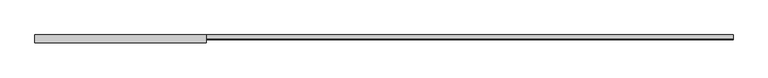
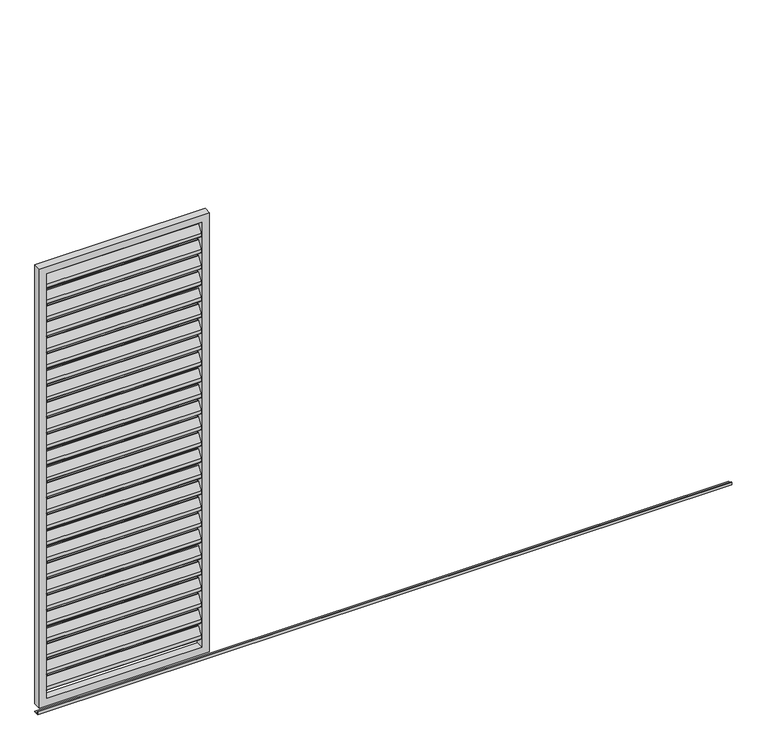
"""IFC4 building model written with IfcOpenShell, lengths in millimetres: proxy geometry, Renson_Amani_Loggia_Paro_Aluminium_Sliding : Renson_Amani_Loggia_Paro_Aluminium_Sliding."""

from ifc_helpers import new_model, si_unit, point, frame, frame_2d, origin, place, context, project, spatial, polyline, circle_curve, trimmed, segment, composite_curve, outline, extrude, source, transform, mapped, element, save


def generic_models_edb0fb24(model_context):
    return source(origin(), model_context, "Body", "SweptSolid", [
        extrude(outline(composite_curve([segment(trimmed(circle_curve(frame_2d((12.6675921, 2432.6587719)), 3.0), [point((10.1515804, 2434.292689))], [point((15.6675921, 2432.6587719))], False, "CARTESIAN"), True, "CONTINUOUS"), segment(polyline([(15.6675921, 2432.6587719), (15.6675921, 2414.2979873)]), True, "CONTINUOUS"), segment(trimmed(circle_curve(frame_2d((12.6675921, 2414.2979873)), 3.0), [point((15.6675921, 2414.2979873))], [point((15.1836038, 2412.6640702))], False, "CARTESIAN"), True, "CONTINUOUS"), segment(polyline([(15.1836038, 2412.6640702), (-8.8163962, 2375.707311)]), True, "CONTINUOUS"), segment(trimmed(circle_curve(frame_2d((-11.3324079, 2377.3412281)), 3.0), [point((-8.8163962, 2375.707311))], [point((-14.3324079, 2377.3412281))], False, "CARTESIAN"), True, "CONTINUOUS"), segment(polyline([(-14.3324079, 2377.3412281), (-14.3324079, 2396.5906532), (10.1515804, 2434.292689)]), True, "CONTINUOUS")], self_intersect=False)), frame((-410.0, 0.0, 0.0), z_axis=(1.0, 0.0, 0.0), x_axis=(0.0, 1.0, 0.0)), (0.0, 0.0, 1.0), 820.0),
        extrude(outline(composite_curve([segment(trimmed(circle_curve(frame_2d((12.6675921, 2342.6587719)), 3.0), [point((10.1515804, 2344.292689))], [point((15.6675921, 2342.6587719))], False, "CARTESIAN"), True, "CONTINUOUS"), segment(polyline([(15.6675921, 2342.6587719), (15.6675921, 2324.2979873)]), True, "CONTINUOUS"), segment(trimmed(circle_curve(frame_2d((12.6675921, 2324.2979873)), 3.0), [point((15.6675921, 2324.2979873))], [point((15.1836038, 2322.6640702))], False, "CARTESIAN"), True, "CONTINUOUS"), segment(polyline([(15.1836038, 2322.6640702), (-8.8163962, 2285.707311)]), True, "CONTINUOUS"), segment(trimmed(circle_curve(frame_2d((-11.3324079, 2287.3412281)), 3.0), [point((-8.8163962, 2285.707311))], [point((-14.3324079, 2287.3412281))], False, "CARTESIAN"), True, "CONTINUOUS"), segment(polyline([(-14.3324079, 2287.3412281), (-14.3324079, 2306.5906532), (10.1515804, 2344.292689)]), True, "CONTINUOUS")], self_intersect=False)), frame((-410.0, 0.0, 0.0), z_axis=(1.0, 0.0, 0.0), x_axis=(0.0, 1.0, 0.0)), (0.0, 0.0, 1.0), 820.0),
        extrude(outline(composite_curve([segment(trimmed(circle_curve(frame_2d((12.6675921, 2252.6587719)), 3.0), [point((10.1515804, 2254.292689))], [point((15.6675921, 2252.6587719))], False, "CARTESIAN"), True, "CONTINUOUS"), segment(polyline([(15.6675921, 2252.6587719), (15.6675921, 2234.2979873)]), True, "CONTINUOUS"), segment(trimmed(circle_curve(frame_2d((12.6675921, 2234.2979873)), 3.0), [point((15.6675921, 2234.2979873))], [point((15.1836038, 2232.6640702))], False, "CARTESIAN"), True, "CONTINUOUS"), segment(polyline([(15.1836038, 2232.6640702), (-8.8163962, 2195.707311)]), True, "CONTINUOUS"), segment(trimmed(circle_curve(frame_2d((-11.3324079, 2197.3412281)), 3.0), [point((-8.8163962, 2195.707311))], [point((-14.3324079, 2197.3412281))], False, "CARTESIAN"), True, "CONTINUOUS"), segment(polyline([(-14.3324079, 2197.3412281), (-14.3324079, 2216.5906532), (10.1515804, 2254.292689)]), True, "CONTINUOUS")], self_intersect=False)), frame((-410.0, 0.0, 0.0), z_axis=(1.0, 0.0, 0.0), x_axis=(0.0, 1.0, 0.0)), (0.0, 0.0, 1.0), 820.0),
        extrude(outline(composite_curve([segment(trimmed(circle_curve(frame_2d((12.6675921, 2162.6587719)), 3.0), [point((10.1515804, 2164.292689))], [point((15.6675921, 2162.6587719))], False, "CARTESIAN"), True, "CONTINUOUS"), segment(polyline([(15.6675921, 2162.6587719), (15.6675921, 2144.2979873)]), True, "CONTINUOUS"), segment(trimmed(circle_curve(frame_2d((12.6675921, 2144.2979873)), 3.0), [point((15.6675921, 2144.2979873))], [point((15.1836038, 2142.6640702))], False, "CARTESIAN"), True, "CONTINUOUS"), segment(polyline([(15.1836038, 2142.6640702), (-8.8163962, 2105.707311)]), True, "CONTINUOUS"), segment(trimmed(circle_curve(frame_2d((-11.3324079, 2107.3412281)), 3.0), [point((-8.8163962, 2105.707311))], [point((-14.3324079, 2107.3412281))], False, "CARTESIAN"), True, "CONTINUOUS"), segment(polyline([(-14.3324079, 2107.3412281), (-14.3324079, 2126.5906532), (10.1515804, 2164.292689)]), True, "CONTINUOUS")], self_intersect=False)), frame((-410.0, 0.0, 0.0), z_axis=(1.0, 0.0, 0.0), x_axis=(0.0, 1.0, 0.0)), (0.0, 0.0, 1.0), 820.0),
        extrude(outline(composite_curve([segment(trimmed(circle_curve(frame_2d((12.6675921, 2072.6587719)), 3.0), [point((10.1515804, 2074.292689))], [point((15.6675921, 2072.6587719))], False, "CARTESIAN"), True, "CONTINUOUS"), segment(polyline([(15.6675921, 2072.6587719), (15.6675921, 2054.2979873)]), True, "CONTINUOUS"), segment(trimmed(circle_curve(frame_2d((12.6675921, 2054.2979873)), 3.0), [point((15.6675921, 2054.2979873))], [point((15.1836038, 2052.6640702))], False, "CARTESIAN"), True, "CONTINUOUS"), segment(polyline([(15.1836038, 2052.6640702), (-8.8163962, 2015.707311)]), True, "CONTINUOUS"), segment(trimmed(circle_curve(frame_2d((-11.3324079, 2017.3412281)), 3.0), [point((-8.8163962, 2015.707311))], [point((-14.3324079, 2017.3412281))], False, "CARTESIAN"), True, "CONTINUOUS"), segment(polyline([(-14.3324079, 2017.3412281), (-14.3324079, 2036.5906532), (10.1515804, 2074.292689)]), True, "CONTINUOUS")], self_intersect=False)), frame((-410.0, 0.0, 0.0), z_axis=(1.0, 0.0, 0.0), x_axis=(0.0, 1.0, 0.0)), (0.0, 0.0, 1.0), 820.0),
        extrude(outline(composite_curve([segment(trimmed(circle_curve(frame_2d((12.6675921, 1982.6587719)), 3.0), [point((10.1515804, 1984.292689))], [point((15.6675921, 1982.6587719))], False, "CARTESIAN"), True, "CONTINUOUS"), segment(polyline([(15.6675921, 1982.6587719), (15.6675921, 1964.2979873)]), True, "CONTINUOUS"), segment(trimmed(circle_curve(frame_2d((12.6675921, 1964.2979873)), 3.0), [point((15.6675921, 1964.2979873))], [point((15.1836038, 1962.6640702))], False, "CARTESIAN"), True, "CONTINUOUS"), segment(polyline([(15.1836038, 1962.6640702), (-8.8163962, 1925.707311)]), True, "CONTINUOUS"), segment(trimmed(circle_curve(frame_2d((-11.3324079, 1927.3412281)), 3.0), [point((-8.8163962, 1925.707311))], [point((-14.3324079, 1927.3412281))], False, "CARTESIAN"), True, "CONTINUOUS"), segment(polyline([(-14.3324079, 1927.3412281), (-14.3324079, 1946.5906532), (10.1515804, 1984.292689)]), True, "CONTINUOUS")], self_intersect=False)), frame((-410.0, 0.0, 0.0), z_axis=(1.0, 0.0, 0.0), x_axis=(0.0, 1.0, 0.0)), (0.0, 0.0, 1.0), 820.0),
        extrude(outline(composite_curve([segment(trimmed(circle_curve(frame_2d((12.6675921, 1892.6587719)), 3.0), [point((10.1515804, 1894.292689))], [point((15.6675921, 1892.6587719))], False, "CARTESIAN"), True, "CONTINUOUS"), segment(polyline([(15.6675921, 1892.6587719), (15.6675921, 1874.2979873)]), True, "CONTINUOUS"), segment(trimmed(circle_curve(frame_2d((12.6675921, 1874.2979873)), 3.0), [point((15.6675921, 1874.2979873))], [point((15.1836038, 1872.6640702))], False, "CARTESIAN"), True, "CONTINUOUS"), segment(polyline([(15.1836038, 1872.6640702), (-8.8163962, 1835.707311)]), True, "CONTINUOUS"), segment(trimmed(circle_curve(frame_2d((-11.3324079, 1837.3412281)), 3.0), [point((-8.8163962, 1835.707311))], [point((-14.3324079, 1837.3412281))], False, "CARTESIAN"), True, "CONTINUOUS"), segment(polyline([(-14.3324079, 1837.3412281), (-14.3324079, 1856.5906532), (10.1515804, 1894.292689)]), True, "CONTINUOUS")], self_intersect=False)), frame((-410.0, 0.0, 0.0), z_axis=(1.0, 0.0, 0.0), x_axis=(0.0, 1.0, 0.0)), (0.0, 0.0, 1.0), 820.0),
        extrude(outline(composite_curve([segment(trimmed(circle_curve(frame_2d((12.6675921, 1802.6587719)), 3.0), [point((10.1515804, 1804.292689))], [point((15.6675921, 1802.6587719))], False, "CARTESIAN"), True, "CONTINUOUS"), segment(polyline([(15.6675921, 1802.6587719), (15.6675921, 1784.2979873)]), True, "CONTINUOUS"), segment(trimmed(circle_curve(frame_2d((12.6675921, 1784.2979873)), 3.0), [point((15.6675921, 1784.2979873))], [point((15.1836038, 1782.6640702))], False, "CARTESIAN"), True, "CONTINUOUS"), segment(polyline([(15.1836038, 1782.6640702), (-8.8163962, 1745.707311)]), True, "CONTINUOUS"), segment(trimmed(circle_curve(frame_2d((-11.3324079, 1747.3412281)), 3.0), [point((-8.8163962, 1745.707311))], [point((-14.3324079, 1747.3412281))], False, "CARTESIAN"), True, "CONTINUOUS"), segment(polyline([(-14.3324079, 1747.3412281), (-14.3324079, 1766.5906532), (10.1515804, 1804.292689)]), True, "CONTINUOUS")], self_intersect=False)), frame((-410.0, 0.0, 0.0), z_axis=(1.0, 0.0, 0.0), x_axis=(0.0, 1.0, 0.0)), (0.0, 0.0, 1.0), 820.0),
        extrude(outline(composite_curve([segment(trimmed(circle_curve(frame_2d((12.6675921, 1712.6587719)), 3.0), [point((10.1515804, 1714.292689))], [point((15.6675921, 1712.6587719))], False, "CARTESIAN"), True, "CONTINUOUS"), segment(polyline([(15.6675921, 1712.6587719), (15.6675921, 1694.2979873)]), True, "CONTINUOUS"), segment(trimmed(circle_curve(frame_2d((12.6675921, 1694.2979873)), 3.0), [point((15.6675921, 1694.2979873))], [point((15.1836038, 1692.6640702))], False, "CARTESIAN"), True, "CONTINUOUS"), segment(polyline([(15.1836038, 1692.6640702), (-8.8163962, 1655.707311)]), True, "CONTINUOUS"), segment(trimmed(circle_curve(frame_2d((-11.3324079, 1657.3412281)), 3.0), [point((-8.8163962, 1655.707311))], [point((-14.3324079, 1657.3412281))], False, "CARTESIAN"), True, "CONTINUOUS"), segment(polyline([(-14.3324079, 1657.3412281), (-14.3324079, 1676.5906532), (10.1515804, 1714.292689)]), True, "CONTINUOUS")], self_intersect=False)), frame((-410.0, 0.0, 0.0), z_axis=(1.0, 0.0, 0.0), x_axis=(0.0, 1.0, 0.0)), (0.0, 0.0, 1.0), 820.0),
        extrude(outline(composite_curve([segment(trimmed(circle_curve(frame_2d((12.6675921, 1622.6587719)), 3.0), [point((10.1515804, 1624.292689))], [point((15.6675921, 1622.6587719))], False, "CARTESIAN"), True, "CONTINUOUS"), segment(polyline([(15.6675921, 1622.6587719), (15.6675921, 1604.2979873)]), True, "CONTINUOUS"), segment(trimmed(circle_curve(frame_2d((12.6675921, 1604.2979873)), 3.0), [point((15.6675921, 1604.2979873))], [point((15.1836038, 1602.6640702))], False, "CARTESIAN"), True, "CONTINUOUS"), segment(polyline([(15.1836038, 1602.6640702), (-8.8163962, 1565.707311)]), True, "CONTINUOUS"), segment(trimmed(circle_curve(frame_2d((-11.3324079, 1567.3412281)), 3.0), [point((-8.8163962, 1565.707311))], [point((-14.3324079, 1567.3412281))], False, "CARTESIAN"), True, "CONTINUOUS"), segment(polyline([(-14.3324079, 1567.3412281), (-14.3324079, 1586.5906532), (10.1515804, 1624.292689)]), True, "CONTINUOUS")], self_intersect=False)), frame((-410.0, 0.0, 0.0), z_axis=(1.0, 0.0, 0.0), x_axis=(0.0, 1.0, 0.0)), (0.0, 0.0, 1.0), 820.0),
        extrude(outline(composite_curve([segment(trimmed(circle_curve(frame_2d((12.6675921, 1532.6587719)), 3.0), [point((10.1515804, 1534.292689))], [point((15.6675921, 1532.6587719))], False, "CARTESIAN"), True, "CONTINUOUS"), segment(polyline([(15.6675921, 1532.6587719), (15.6675921, 1514.2979873)]), True, "CONTINUOUS"), segment(trimmed(circle_curve(frame_2d((12.6675921, 1514.2979873)), 3.0), [point((15.6675921, 1514.2979873))], [point((15.1836038, 1512.6640702))], False, "CARTESIAN"), True, "CONTINUOUS"), segment(polyline([(15.1836038, 1512.6640702), (-8.8163962, 1475.707311)]), True, "CONTINUOUS"), segment(trimmed(circle_curve(frame_2d((-11.3324079, 1477.3412281)), 3.0), [point((-8.8163962, 1475.707311))], [point((-14.3324079, 1477.3412281))], False, "CARTESIAN"), True, "CONTINUOUS"), segment(polyline([(-14.3324079, 1477.3412281), (-14.3324079, 1496.5906532), (10.1515804, 1534.292689)]), True, "CONTINUOUS")], self_intersect=False)), frame((-410.0, 0.0, 0.0), z_axis=(1.0, 0.0, 0.0), x_axis=(0.0, 1.0, 0.0)), (0.0, 0.0, 1.0), 820.0),
        extrude(outline(composite_curve([segment(trimmed(circle_curve(frame_2d((12.6675921, 1442.6587719)), 3.0), [point((10.1515804, 1444.292689))], [point((15.6675921, 1442.6587719))], False, "CARTESIAN"), True, "CONTINUOUS"), segment(polyline([(15.6675921, 1442.6587719), (15.6675921, 1424.2979873)]), True, "CONTINUOUS"), segment(trimmed(circle_curve(frame_2d((12.6675921, 1424.2979873)), 3.0), [point((15.6675921, 1424.2979873))], [point((15.1836038, 1422.6640702))], False, "CARTESIAN"), True, "CONTINUOUS"), segment(polyline([(15.1836038, 1422.6640702), (-8.8163962, 1385.707311)]), True, "CONTINUOUS"), segment(trimmed(circle_curve(frame_2d((-11.3324079, 1387.3412281)), 3.0), [point((-8.8163962, 1385.707311))], [point((-14.3324079, 1387.3412281))], False, "CARTESIAN"), True, "CONTINUOUS"), segment(polyline([(-14.3324079, 1387.3412281), (-14.3324079, 1406.5906532), (10.1515804, 1444.292689)]), True, "CONTINUOUS")], self_intersect=False)), frame((-410.0, 0.0, 0.0), z_axis=(1.0, 0.0, 0.0), x_axis=(0.0, 1.0, 0.0)), (0.0, 0.0, 1.0), 820.0),
        extrude(outline(composite_curve([segment(trimmed(circle_curve(frame_2d((12.6675921, 1352.6587719)), 3.0), [point((10.1515804, 1354.292689))], [point((15.6675921, 1352.6587719))], False, "CARTESIAN"), True, "CONTINUOUS"), segment(polyline([(15.6675921, 1352.6587719), (15.6675921, 1334.2979873)]), True, "CONTINUOUS"), segment(trimmed(circle_curve(frame_2d((12.6675921, 1334.2979873)), 3.0), [point((15.6675921, 1334.2979873))], [point((15.1836038, 1332.6640702))], False, "CARTESIAN"), True, "CONTINUOUS"), segment(polyline([(15.1836038, 1332.6640702), (-8.8163962, 1295.707311)]), True, "CONTINUOUS"), segment(trimmed(circle_curve(frame_2d((-11.3324079, 1297.3412281)), 3.0), [point((-8.8163962, 1295.707311))], [point((-14.3324079, 1297.3412281))], False, "CARTESIAN"), True, "CONTINUOUS"), segment(polyline([(-14.3324079, 1297.3412281), (-14.3324079, 1316.5906532), (10.1515804, 1354.292689)]), True, "CONTINUOUS")], self_intersect=False)), frame((-410.0, 0.0, 0.0), z_axis=(1.0, 0.0, 0.0), x_axis=(0.0, 1.0, 0.0)), (0.0, 0.0, 1.0), 820.0),
        extrude(outline(composite_curve([segment(trimmed(circle_curve(frame_2d((12.6675921, 1262.6587719)), 3.0), [point((10.1515804, 1264.292689))], [point((15.6675921, 1262.6587719))], False, "CARTESIAN"), True, "CONTINUOUS"), segment(polyline([(15.6675921, 1262.6587719), (15.6675921, 1244.2979873)]), True, "CONTINUOUS"), segment(trimmed(circle_curve(frame_2d((12.6675921, 1244.2979873)), 3.0), [point((15.6675921, 1244.2979873))], [point((15.1836038, 1242.6640702))], False, "CARTESIAN"), True, "CONTINUOUS"), segment(polyline([(15.1836038, 1242.6640702), (-8.8163962, 1205.707311)]), True, "CONTINUOUS"), segment(trimmed(circle_curve(frame_2d((-11.3324079, 1207.3412281)), 3.0), [point((-8.8163962, 1205.707311))], [point((-14.3324079, 1207.3412281))], False, "CARTESIAN"), True, "CONTINUOUS"), segment(polyline([(-14.3324079, 1207.3412281), (-14.3324079, 1226.5906532), (10.1515804, 1264.292689)]), True, "CONTINUOUS")], self_intersect=False)), frame((-410.0, 0.0, 0.0), z_axis=(1.0, 0.0, 0.0), x_axis=(0.0, 1.0, 0.0)), (0.0, 0.0, 1.0), 820.0),
        extrude(outline(composite_curve([segment(trimmed(circle_curve(frame_2d((12.6675921, 1172.6587719)), 3.0), [point((10.1515804, 1174.292689))], [point((15.6675921, 1172.6587719))], False, "CARTESIAN"), True, "CONTINUOUS"), segment(polyline([(15.6675921, 1172.6587719), (15.6675921, 1154.2979873)]), True, "CONTINUOUS"), segment(trimmed(circle_curve(frame_2d((12.6675921, 1154.2979873)), 3.0), [point((15.6675921, 1154.2979873))], [point((15.1836038, 1152.6640702))], False, "CARTESIAN"), True, "CONTINUOUS"), segment(polyline([(15.1836038, 1152.6640702), (-8.8163962, 1115.707311)]), True, "CONTINUOUS"), segment(trimmed(circle_curve(frame_2d((-11.3324079, 1117.3412281)), 3.0), [point((-8.8163962, 1115.707311))], [point((-14.3324079, 1117.3412281))], False, "CARTESIAN"), True, "CONTINUOUS"), segment(polyline([(-14.3324079, 1117.3412281), (-14.3324079, 1136.5906532), (10.1515804, 1174.292689)]), True, "CONTINUOUS")], self_intersect=False)), frame((-410.0, 0.0, 0.0), z_axis=(1.0, 0.0, 0.0), x_axis=(0.0, 1.0, 0.0)), (0.0, 0.0, 1.0), 820.0),
        extrude(outline(composite_curve([segment(trimmed(circle_curve(frame_2d((12.6675921, 1082.6587719)), 3.0), [point((10.1515804, 1084.292689))], [point((15.6675921, 1082.6587719))], False, "CARTESIAN"), True, "CONTINUOUS"), segment(polyline([(15.6675921, 1082.6587719), (15.6675921, 1064.2979873)]), True, "CONTINUOUS"), segment(trimmed(circle_curve(frame_2d((12.6675921, 1064.2979873)), 3.0), [point((15.6675921, 1064.2979873))], [point((15.1836038, 1062.6640702))], False, "CARTESIAN"), True, "CONTINUOUS"), segment(polyline([(15.1836038, 1062.6640702), (-8.8163962, 1025.707311)]), True, "CONTINUOUS"), segment(trimmed(circle_curve(frame_2d((-11.3324079, 1027.3412281)), 3.0), [point((-8.8163962, 1025.707311))], [point((-14.3324079, 1027.3412281))], False, "CARTESIAN"), True, "CONTINUOUS"), segment(polyline([(-14.3324079, 1027.3412281), (-14.3324079, 1046.5906532), (10.1515804, 1084.292689)]), True, "CONTINUOUS")], self_intersect=False)), frame((-410.0, 0.0, 0.0), z_axis=(1.0, 0.0, 0.0), x_axis=(0.0, 1.0, 0.0)), (0.0, 0.0, 1.0), 820.0),
        extrude(outline(composite_curve([segment(trimmed(circle_curve(frame_2d((12.6675921, 992.6587719)), 3.0), [point((10.1515804, 994.292689))], [point((15.6675921, 992.6587719))], False, "CARTESIAN"), True, "CONTINUOUS"), segment(polyline([(15.6675921, 992.6587719), (15.6675921, 974.2979873)]), True, "CONTINUOUS"), segment(trimmed(circle_curve(frame_2d((12.6675921, 974.2979873)), 3.0), [point((15.6675921, 974.2979873))], [point((15.1836038, 972.6640702))], False, "CARTESIAN"), True, "CONTINUOUS"), segment(polyline([(15.1836038, 972.6640702), (-8.8163962, 935.707311)]), True, "CONTINUOUS"), segment(trimmed(circle_curve(frame_2d((-11.3324079, 937.3412281)), 3.0), [point((-8.8163962, 935.707311))], [point((-14.3324079, 937.3412281))], False, "CARTESIAN"), True, "CONTINUOUS"), segment(polyline([(-14.3324079, 937.3412281), (-14.3324079, 956.5906532), (10.1515804, 994.292689)]), True, "CONTINUOUS")], self_intersect=False)), frame((-410.0, 0.0, 0.0), z_axis=(1.0, 0.0, 0.0), x_axis=(0.0, 1.0, 0.0)), (0.0, 0.0, 1.0), 820.0),
        extrude(outline(composite_curve([segment(trimmed(circle_curve(frame_2d((12.6675921, 902.6587719)), 3.0), [point((10.1515804, 904.292689))], [point((15.6675921, 902.6587719))], False, "CARTESIAN"), True, "CONTINUOUS"), segment(polyline([(15.6675921, 902.6587719), (15.6675921, 884.2979873)]), True, "CONTINUOUS"), segment(trimmed(circle_curve(frame_2d((12.6675921, 884.2979873)), 3.0), [point((15.6675921, 884.2979873))], [point((15.1836038, 882.6640702))], False, "CARTESIAN"), True, "CONTINUOUS"), segment(polyline([(15.1836038, 882.6640702), (-8.8163962, 845.707311)]), True, "CONTINUOUS"), segment(trimmed(circle_curve(frame_2d((-11.3324079, 847.3412281)), 3.0), [point((-8.8163962, 845.707311))], [point((-14.3324079, 847.3412281))], False, "CARTESIAN"), True, "CONTINUOUS"), segment(polyline([(-14.3324079, 847.3412281), (-14.3324079, 866.5906532), (10.1515804, 904.292689)]), True, "CONTINUOUS")], self_intersect=False)), frame((-410.0, 0.0, 0.0), z_axis=(1.0, 0.0, 0.0), x_axis=(0.0, 1.0, 0.0)), (0.0, 0.0, 1.0), 820.0),
        extrude(outline(composite_curve([segment(trimmed(circle_curve(frame_2d((12.6675921, 812.6587719)), 3.0), [point((10.1515804, 814.292689))], [point((15.6675921, 812.6587719))], False, "CARTESIAN"), True, "CONTINUOUS"), segment(polyline([(15.6675921, 812.6587719), (15.6675921, 794.2979873)]), True, "CONTINUOUS"), segment(trimmed(circle_curve(frame_2d((12.6675921, 794.2979873)), 3.0), [point((15.6675921, 794.2979873))], [point((15.1836038, 792.6640702))], False, "CARTESIAN"), True, "CONTINUOUS"), segment(polyline([(15.1836038, 792.6640702), (-8.8163962, 755.707311)]), True, "CONTINUOUS"), segment(trimmed(circle_curve(frame_2d((-11.3324079, 757.3412281)), 3.0), [point((-8.8163962, 755.707311))], [point((-14.3324079, 757.3412281))], False, "CARTESIAN"), True, "CONTINUOUS"), segment(polyline([(-14.3324079, 757.3412281), (-14.3324079, 776.5906532), (10.1515804, 814.292689)]), True, "CONTINUOUS")], self_intersect=False)), frame((-410.0, 0.0, 0.0), z_axis=(1.0, 0.0, 0.0), x_axis=(0.0, 1.0, 0.0)), (0.0, 0.0, 1.0), 820.0),
        extrude(outline(composite_curve([segment(trimmed(circle_curve(frame_2d((12.6675921, 722.6587719)), 3.0), [point((10.1515804, 724.292689))], [point((15.6675921, 722.6587719))], False, "CARTESIAN"), True, "CONTINUOUS"), segment(polyline([(15.6675921, 722.6587719), (15.6675921, 704.2979873)]), True, "CONTINUOUS"), segment(trimmed(circle_curve(frame_2d((12.6675921, 704.2979873)), 3.0), [point((15.6675921, 704.2979873))], [point((15.1836038, 702.6640702))], False, "CARTESIAN"), True, "CONTINUOUS"), segment(polyline([(15.1836038, 702.6640702), (-8.8163962, 665.707311)]), True, "CONTINUOUS"), segment(trimmed(circle_curve(frame_2d((-11.3324079, 667.3412281)), 3.0), [point((-8.8163962, 665.707311))], [point((-14.3324079, 667.3412281))], False, "CARTESIAN"), True, "CONTINUOUS"), segment(polyline([(-14.3324079, 667.3412281), (-14.3324079, 686.5906532), (10.1515804, 724.292689)]), True, "CONTINUOUS")], self_intersect=False)), frame((-410.0, 0.0, 0.0), z_axis=(1.0, 0.0, 0.0), x_axis=(0.0, 1.0, 0.0)), (0.0, 0.0, 1.0), 820.0),
        extrude(outline(composite_curve([segment(trimmed(circle_curve(frame_2d((12.6675921, 632.6587719)), 3.0), [point((10.1515804, 634.292689))], [point((15.6675921, 632.6587719))], False, "CARTESIAN"), True, "CONTINUOUS"), segment(polyline([(15.6675921, 632.6587719), (15.6675921, 614.2979873)]), True, "CONTINUOUS"), segment(trimmed(circle_curve(frame_2d((12.6675921, 614.2979873)), 3.0), [point((15.6675921, 614.2979873))], [point((15.1836038, 612.6640702))], False, "CARTESIAN"), True, "CONTINUOUS"), segment(polyline([(15.1836038, 612.6640702), (-8.8163962, 575.707311)]), True, "CONTINUOUS"), segment(trimmed(circle_curve(frame_2d((-11.3324079, 577.3412281)), 3.0), [point((-8.8163962, 575.707311))], [point((-14.3324079, 577.3412281))], False, "CARTESIAN"), True, "CONTINUOUS"), segment(polyline([(-14.3324079, 577.3412281), (-14.3324079, 596.5906532), (10.1515804, 634.292689)]), True, "CONTINUOUS")], self_intersect=False)), frame((-410.0, 0.0, 0.0), z_axis=(1.0, 0.0, 0.0), x_axis=(0.0, 1.0, 0.0)), (0.0, 0.0, 1.0), 820.0),
        extrude(outline(composite_curve([segment(trimmed(circle_curve(frame_2d((12.6675921, 542.6587719)), 3.0), [point((10.1515804, 544.292689))], [point((15.6675921, 542.6587719))], False, "CARTESIAN"), True, "CONTINUOUS"), segment(polyline([(15.6675921, 542.6587719), (15.6675921, 524.2979873)]), True, "CONTINUOUS"), segment(trimmed(circle_curve(frame_2d((12.6675921, 524.2979873)), 3.0), [point((15.6675921, 524.2979873))], [point((15.1836038, 522.6640702))], False, "CARTESIAN"), True, "CONTINUOUS"), segment(polyline([(15.1836038, 522.6640702), (-8.8163962, 485.707311)]), True, "CONTINUOUS"), segment(trimmed(circle_curve(frame_2d((-11.3324079, 487.3412281)), 3.0), [point((-8.8163962, 485.707311))], [point((-14.3324079, 487.3412281))], False, "CARTESIAN"), True, "CONTINUOUS"), segment(polyline([(-14.3324079, 487.3412281), (-14.3324079, 506.5906532), (10.1515804, 544.292689)]), True, "CONTINUOUS")], self_intersect=False)), frame((-410.0, 0.0, 0.0), z_axis=(1.0, 0.0, 0.0), x_axis=(0.0, 1.0, 0.0)), (0.0, 0.0, 1.0), 820.0),
        extrude(outline(composite_curve([segment(trimmed(circle_curve(frame_2d((12.6675921, 452.6587719)), 3.0), [point((10.1515804, 454.292689))], [point((15.6675921, 452.6587719))], False, "CARTESIAN"), True, "CONTINUOUS"), segment(polyline([(15.6675921, 452.6587719), (15.6675921, 434.2979873)]), True, "CONTINUOUS"), segment(trimmed(circle_curve(frame_2d((12.6675921, 434.2979873)), 3.0), [point((15.6675921, 434.2979873))], [point((15.1836038, 432.6640702))], False, "CARTESIAN"), True, "CONTINUOUS"), segment(polyline([(15.1836038, 432.6640702), (-8.8163962, 395.707311)]), True, "CONTINUOUS"), segment(trimmed(circle_curve(frame_2d((-11.3324079, 397.3412281)), 3.0), [point((-8.8163962, 395.707311))], [point((-14.3324079, 397.3412281))], False, "CARTESIAN"), True, "CONTINUOUS"), segment(polyline([(-14.3324079, 397.3412281), (-14.3324079, 416.5906532), (10.1515804, 454.292689)]), True, "CONTINUOUS")], self_intersect=False)), frame((-410.0, 0.0, 0.0), z_axis=(1.0, 0.0, 0.0), x_axis=(0.0, 1.0, 0.0)), (0.0, 0.0, 1.0), 820.0),
        extrude(outline(composite_curve([segment(trimmed(circle_curve(frame_2d((12.6675921, 362.6587719)), 3.0), [point((10.1515804, 364.292689))], [point((15.6675921, 362.6587719))], False, "CARTESIAN"), True, "CONTINUOUS"), segment(polyline([(15.6675921, 362.6587719), (15.6675921, 344.2979873)]), True, "CONTINUOUS"), segment(trimmed(circle_curve(frame_2d((12.6675921, 344.2979873)), 3.0), [point((15.6675921, 344.2979873))], [point((15.1836038, 342.6640702))], False, "CARTESIAN"), True, "CONTINUOUS"), segment(polyline([(15.1836038, 342.6640702), (-8.8163962, 305.707311)]), True, "CONTINUOUS"), segment(trimmed(circle_curve(frame_2d((-11.3324079, 307.3412281)), 3.0), [point((-8.8163962, 305.707311))], [point((-14.3324079, 307.3412281))], False, "CARTESIAN"), True, "CONTINUOUS"), segment(polyline([(-14.3324079, 307.3412281), (-14.3324079, 326.5906532), (10.1515804, 364.292689)]), True, "CONTINUOUS")], self_intersect=False)), frame((-410.0, 0.0, 0.0), z_axis=(1.0, 0.0, 0.0), x_axis=(0.0, 1.0, 0.0)), (0.0, 0.0, 1.0), 820.0),
        extrude(outline(composite_curve([segment(trimmed(circle_curve(frame_2d((12.6675921, 272.6587719)), 3.0), [point((10.1515804, 274.292689))], [point((15.6675921, 272.6587719))], False, "CARTESIAN"), True, "CONTINUOUS"), segment(polyline([(15.6675921, 272.6587719), (15.6675921, 254.2979873)]), True, "CONTINUOUS"), segment(trimmed(circle_curve(frame_2d((12.6675921, 254.2979873)), 3.0), [point((15.6675921, 254.2979873))], [point((15.1836038, 252.6640702))], False, "CARTESIAN"), True, "CONTINUOUS"), segment(polyline([(15.1836038, 252.6640702), (-8.8163962, 215.707311)]), True, "CONTINUOUS"), segment(trimmed(circle_curve(frame_2d((-11.3324079, 217.3412281)), 3.0), [point((-8.8163962, 215.707311))], [point((-14.3324079, 217.3412281))], False, "CARTESIAN"), True, "CONTINUOUS"), segment(polyline([(-14.3324079, 217.3412281), (-14.3324079, 236.5906532), (10.1515804, 274.292689)]), True, "CONTINUOUS")], self_intersect=False)), frame((-410.0, 0.0, 0.0), z_axis=(1.0, 0.0, 0.0), x_axis=(0.0, 1.0, 0.0)), (0.0, 0.0, 1.0), 820.0),
        extrude(outline(composite_curve([segment(trimmed(circle_curve(frame_2d((12.6675921, 182.6587719)), 3.0), [point((10.1515804, 184.292689))], [point((15.6675921, 182.6587719))], False, "CARTESIAN"), True, "CONTINUOUS"), segment(polyline([(15.6675921, 182.6587719), (15.6675921, 164.2979873)]), True, "CONTINUOUS"), segment(trimmed(circle_curve(frame_2d((12.6675921, 164.2979873)), 3.0), [point((15.6675921, 164.2979873))], [point((15.1836038, 162.6640702))], False, "CARTESIAN"), True, "CONTINUOUS"), segment(polyline([(15.1836038, 162.6640702), (-8.8163962, 125.707311)]), True, "CONTINUOUS"), segment(trimmed(circle_curve(frame_2d((-11.3324079, 127.3412281)), 3.0), [point((-8.8163962, 125.707311))], [point((-14.3324079, 127.3412281))], False, "CARTESIAN"), True, "CONTINUOUS"), segment(polyline([(-14.3324079, 127.3412281), (-14.3324079, 146.5906532), (10.1515804, 184.292689)]), True, "CONTINUOUS")], self_intersect=False)), frame((-410.0, 0.0, 0.0), z_axis=(1.0, 0.0, 0.0), x_axis=(0.0, 1.0, 0.0)), (0.0, 0.0, 1.0), 820.0),
        extrude(outline(polyline([(-6.0, 15.0), (-3.0, 15.0), (-3.0, 3.0), (20.0, 3.0), (20.0, 0.0), (-6.0, 0.0), (-6.0, 15.0)])), frame((-450.0, 0.0, 0.0), z_axis=(1.0, 0.0, 0.0), x_axis=(0.0, 1.0, 0.0)), (0.0, 0.0, 1.0), 3670.0),
        extrude(outline(polyline([(2500.0, -450.0), (45.0, -450.0), (45.0, 450.0), (2500.0, 450.0), (2500.0, -450.0)]), holes=[polyline([(2460.0, 410.0), (85.0, 410.0), (85.0, -410.0), (2460.0, -410.0), (2460.0, 410.0)])]), frame((0.0, -20.0, 0.0), z_axis=(0.0, 1.0, 0.0), x_axis=(0.0, 0.0, 1.0)), (0.0, 0.0, 1.0), 40.0),
    ])


if __name__ == "__main__":
    model = new_model("IFC4")
    model_context = context("Model", 3, world=origin())
    ifc_project = project(units=[si_unit("LENGTHUNIT", "METRE", prefix="MILLI")], contexts=[model_context])
    site = spatial("IfcSite", under=ifc_project)
    building = spatial("IfcBuilding", under=site)
    placement = place(None, origin())
    generic_models_shape = generic_models_edb0fb24(model_context)
    element("IfcBuildingElementProxy", 1, Name="Renson_Amani_Loggia_Paro_Aluminium_Sliding : Renson_Amani_Loggia_Paro_Aluminium_Sliding", ObjectType="Renson_Amani_Loggia_Paro_Aluminium_Sliding : Renson_Amani_Loggia_Paro_Aluminium_Sliding", at=placement, inside=building, context=model_context, shape_type="MappedRepresentation", body=[
        mapped(generic_models_shape, transform((0.0, 0.0, 0.0), x_axis=(1.0, 0.0, 0.0), y_axis=(0.0, 1.0, 0.0), z_axis=(0.0, 0.0, 1.0))),
    ])
    save(model, "model.ifc")
